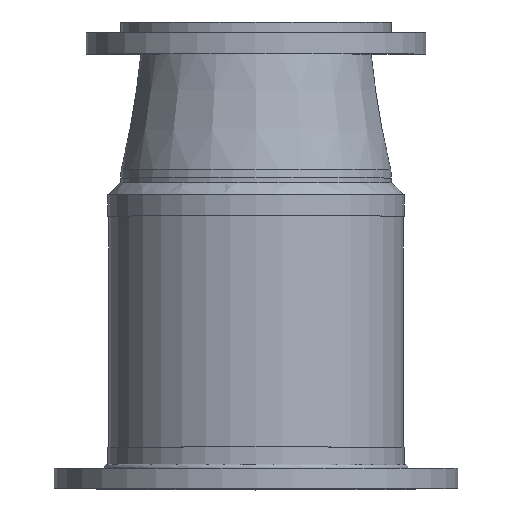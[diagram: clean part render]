
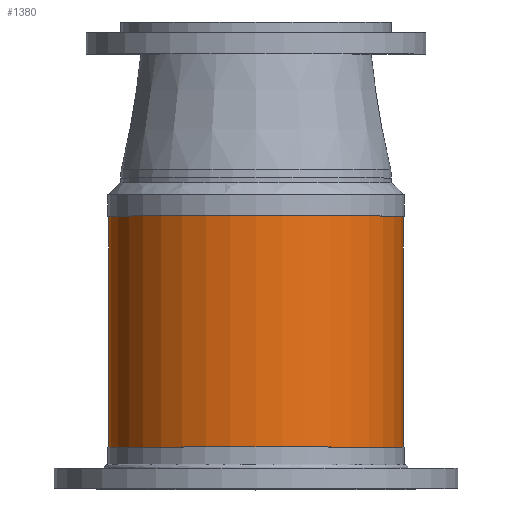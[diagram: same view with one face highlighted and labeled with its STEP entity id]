
A CAD part, top view. The second image highlights one B-rep face of the part: STEP entity #1380.
In plain terms, the highlighted cylindrical face has radius 175.768 mm (diameter 351.536 mm), a full revolution.
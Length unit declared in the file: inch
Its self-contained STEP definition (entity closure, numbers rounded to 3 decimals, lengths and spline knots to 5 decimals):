
#1346=CARTESIAN_POINT('',(-6.92,-6.4375,0.));
#1347=VERTEX_POINT('',#1346);
#1348=CARTESIAN_POINT('',(0.0,-6.4375,0.0));
#1349=DIRECTION('',(0.0,1.0,0.0));
#1350=DIRECTION('',(1.0,0.0,0.0));
#1351=AXIS2_PLACEMENT_3D('',#1348,#1349,#1350);
#1352=CIRCLE('',#1351,6.92);
#1353=EDGE_CURVE('',#1347,#1347,#1352,.T.);
#1361=CARTESIAN_POINT('',(0.0,0.0,0.0));
#1362=DIRECTION('',(0.0,1.0,0.0));
#1363=DIRECTION('',(1.0,0.0,0.0));
#1364=AXIS2_PLACEMENT_3D('',#1361,#1362,#1363);
#1365=CYLINDRICAL_SURFACE('',#1364,6.92);
#1366=ORIENTED_EDGE('',*,*,#1353,.T.);
#1367=EDGE_LOOP('',(#1366));
#1368=FACE_OUTER_BOUND('',#1367,.T.);
#1369=CARTESIAN_POINT('',(-6.92,6.4375,0.));
#1370=VERTEX_POINT('',#1369);
#1371=CARTESIAN_POINT('',(0.0,6.4375,0.0));
#1372=DIRECTION('',(0.0,-1.0,0.0));
#1373=DIRECTION('',(1.0,0.0,0.0));
#1374=AXIS2_PLACEMENT_3D('',#1371,#1372,#1373);
#1375=CIRCLE('',#1374,6.92);
#1376=EDGE_CURVE('',#1370,#1370,#1375,.T.);
#1377=ORIENTED_EDGE('',*,*,#1376,.T.);
#1378=EDGE_LOOP('',(#1377));
#1379=FACE_BOUND('',#1378,.T.);
#1380=ADVANCED_FACE('',(#1368,#1379),#1365,.T.);
